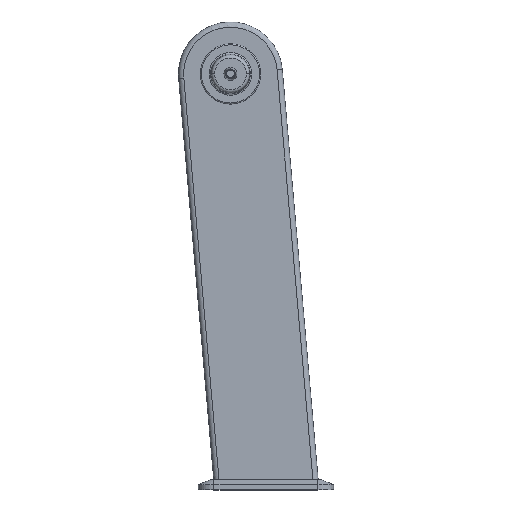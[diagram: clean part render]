
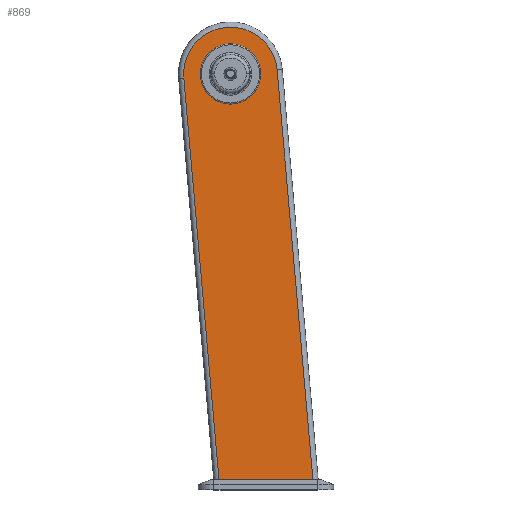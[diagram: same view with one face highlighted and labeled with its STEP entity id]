
A CAD part, top view. The second image highlights one B-rep face of the part: STEP entity #869.
In plain terms, the highlighted planar face has unit normal (0, 0, 1).
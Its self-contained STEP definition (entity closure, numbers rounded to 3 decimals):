
#4 = PLANE ( 'NONE',  #2057 ) ;
#10 = CARTESIAN_POINT ( 'NONE',  ( 158.585, -780., 31.25 ) ) ;
#11 = CARTESIAN_POINT ( 'NONE',  ( -89.658, -7.844, 31.25 ) ) ;
#199 = EDGE_CURVE ( 'NONE', #2230, #993, #1374, .T. ) ;
#269 = VERTEX_POINT ( 'NONE', #1479 ) ;
#316 = ORIENTED_EDGE ( 'NONE', *, *, #2480, .F. ) ;
#351 = EDGE_LOOP ( 'NONE', ( #2130, #316 ) ) ;
#360 = VECTOR ( 'NONE', #1083, 1000. ) ;
#390 = CIRCLE ( 'NONE', #1176, 58. ) ;
#503 = VERTEX_POINT ( 'NONE', #10 ) ;
#541 = EDGE_CURVE ( 'NONE', #503, #1584, #1732, .T. ) ;
#551 = FACE_OUTER_BOUND ( 'NONE', #2215, .T. ) ;
#709 = VECTOR ( 'NONE', #1938, 1000. ) ;
#751 = LINE ( 'NONE', #2261, #1715 ) ;
#790 = DIRECTION ( 'NONE',  ( 0., 0., 1. ) ) ;
#869 = ADVANCED_FACE ( 'NONE', ( #551, #2021 ), #4, .T. ) ;
#892 = AXIS2_PLACEMENT_3D ( 'NONE', #2250, #1101, #2445 ) ;
#918 = ORIENTED_EDGE ( 'NONE', *, *, #199, .T. ) ;
#993 = VERTEX_POINT ( 'NONE', #2176 ) ;
#1059 = CARTESIAN_POINT ( 'NONE',  ( 0., 0., 31.25 ) ) ;
#1083 = DIRECTION ( 'NONE',  ( 0.087, -0.996, 0. ) ) ;
#1092 = CIRCLE ( 'NONE', #892, 90. ) ;
#1101 = DIRECTION ( 'NONE',  ( 0., 0., 1. ) ) ;
#1173 = DIRECTION ( 'NONE',  ( 1., 0., 0. ) ) ;
#1176 = AXIS2_PLACEMENT_3D ( 'NONE', #1059, #2409, #1252 ) ;
#1252 = DIRECTION ( 'NONE',  ( 1., 0., 0. ) ) ;
#1366 = CARTESIAN_POINT ( 'NONE',  ( 89.658, 7.844, 31.25 ) ) ;
#1374 = LINE ( 'NONE', #2425, #360 ) ;
#1479 = CARTESIAN_POINT ( 'NONE',  ( 58., 0., 31.25 ) ) ;
#1489 = EDGE_CURVE ( 'NONE', #993, #503, #751, .T. ) ;
#1584 = VERTEX_POINT ( 'NONE', #2307 ) ;
#1668 = EDGE_CURVE ( 'NONE', #269, #1866, #2390, .T. ) ;
#1715 = VECTOR ( 'NONE', #1873, 1000. ) ;
#1732 = LINE ( 'NONE', #1366, #709 ) ;
#1866 = VERTEX_POINT ( 'NONE', #2003 ) ;
#1873 = DIRECTION ( 'NONE',  ( 1., 0., 0. ) ) ;
#1935 = CARTESIAN_POINT ( 'NONE',  ( 0., 0., 31.25 ) ) ;
#1938 = DIRECTION ( 'NONE',  ( -0.087, 0.996, 0. ) ) ;
#1940 = CARTESIAN_POINT ( 'NONE',  ( 0., 0., 31.25 ) ) ;
#1956 = EDGE_CURVE ( 'NONE', #1584, #2230, #1092, .T. ) ;
#2003 = CARTESIAN_POINT ( 'NONE',  ( -58., 0., 31.25 ) ) ;
#2006 = AXIS2_PLACEMENT_3D ( 'NONE', #1940, #790, #2136 ) ;
#2021 = FACE_BOUND ( 'NONE', #351, .T. ) ;
#2057 = AXIS2_PLACEMENT_3D ( 'NONE', #1935, #2337, #1173 ) ;
#2100 = ORIENTED_EDGE ( 'NONE', *, *, #1489, .T. ) ;
#2130 = ORIENTED_EDGE ( 'NONE', *, *, #1668, .F. ) ;
#2136 = DIRECTION ( 'NONE',  ( 1., 0., 0. ) ) ;
#2176 = CARTESIAN_POINT ( 'NONE',  ( -22.103, -780., 31.25 ) ) ;
#2215 = EDGE_LOOP ( 'NONE', ( #918, #2100, #2371, #2232 ) ) ;
#2230 = VERTEX_POINT ( 'NONE', #11 ) ;
#2232 = ORIENTED_EDGE ( 'NONE', *, *, #1956, .T. ) ;
#2250 = CARTESIAN_POINT ( 'NONE',  ( 0., 0., 31.25 ) ) ;
#2261 = CARTESIAN_POINT ( 'NONE',  ( 0., -780., 31.25 ) ) ;
#2307 = CARTESIAN_POINT ( 'NONE',  ( 89.658, 7.844, 31.25 ) ) ;
#2337 = DIRECTION ( 'NONE',  ( 0., 0., 1. ) ) ;
#2371 = ORIENTED_EDGE ( 'NONE', *, *, #541, .T. ) ;
#2390 = CIRCLE ( 'NONE', #2006, 58. ) ;
#2409 = DIRECTION ( 'NONE',  ( 0., 0., 1. ) ) ;
#2425 = CARTESIAN_POINT ( 'NONE',  ( -20.429, -799.128, 31.25 ) ) ;
#2445 = DIRECTION ( 'NONE',  ( 1., 0., 0. ) ) ;
#2480 = EDGE_CURVE ( 'NONE', #1866, #269, #390, .T. ) ;
